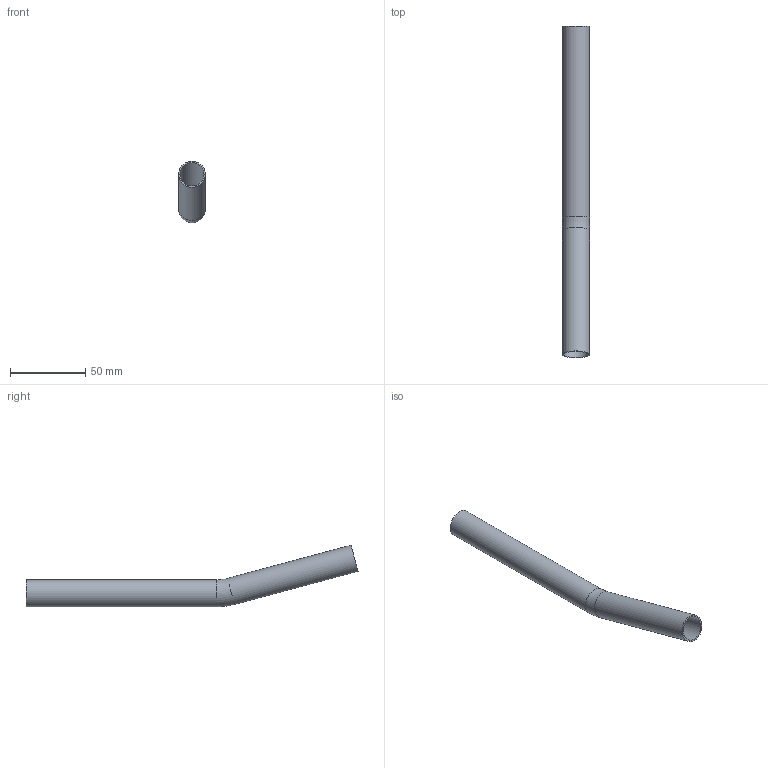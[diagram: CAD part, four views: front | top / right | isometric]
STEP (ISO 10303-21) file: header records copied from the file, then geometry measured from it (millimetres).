
FILE_DESCRIPTION(('STEP AP203'), '1');
FILE_NAME('ÂÐ.747111.006 - VTi.955.I.151818 Îòâîä 15 ãð. d18 (90õ132)', '', ('UNSPECIFIED'), ('UNSPECIFIED'), 'C3D Converter', 'C3D Toolkit', '');
FILE_SCHEMA(('CONFIG_CONTROL_DESIGN'));
Length unit declared in the file: millimetre
Products named in the file (1): ВР.747111.006
Bounding box: 18 x 221.26 x 40.99 mm (x, y, z)
Volume: 11853.5 mm3; surface area: 23813.8 mm2
Topology: 1 solids, 1 shells, 8 faces, 14 edges, 8 vertices
Faces by surface type: cylinder 4, torus 2, plane 2
Full cylindrical faces by diameter (mm): 16 x2, 18 x2
Entity records: 208 total; most frequent: DIRECTION 34, CARTESIAN_POINT 25, AXIS2_PLACEMENT_3D 17, EDGE_LOOP 16, ORIENTED_EDGE 16, FACE_OUTER_BOUND 12, ADVANCED_FACE 8, EDGE_CURVE 8
